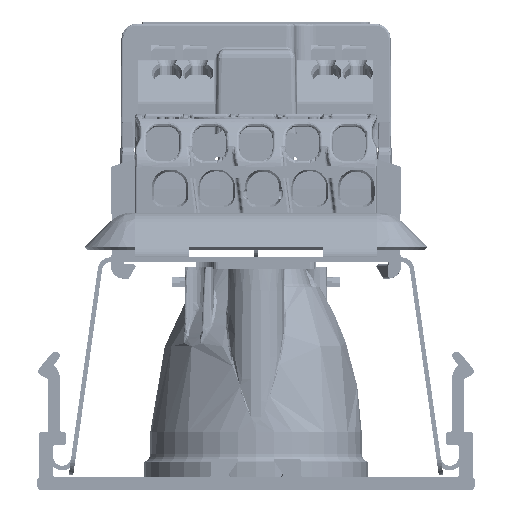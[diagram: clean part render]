
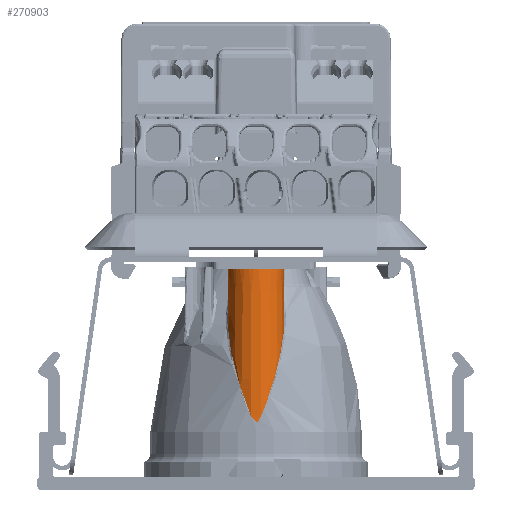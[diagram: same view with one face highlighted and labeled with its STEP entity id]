
A CAD part, front view. The second image highlights one B-rep face of the part: STEP entity #270903.
In plain terms, the highlighted conical face has half-angle 0.5 degrees and reference radius 3.352 mm.
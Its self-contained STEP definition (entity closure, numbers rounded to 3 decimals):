
#6261=CONICAL_SURFACE('',#289379,3.352,0.009);
#17709=CIRCLE('',#288207,3.125);
#18141=CIRCLE('',#289380,3.125);
#18142=CIRCLE('',#289381,3.125);
#27370=B_SPLINE_CURVE_WITH_KNOTS('',3,(#771789,#771790,#771791,#771792,
#771793,#771794,#771795,#771796,#771797,#771798,#771799,#771800,#771801,
#771802,#771803,#771804,#771805,#771806,#771807,#771808,#771809,#771810,
#771811),.UNSPECIFIED.,.F.,.F.,(4,1,1,1,1,1,1,1,1,1,1,1,1,1,1,1,1,1,1,1,
4),(0.041,0.295,0.575,1.135,
1.694,1.788,1.881,1.928,1.951,
1.963,1.974,1.998,2.021,2.068,
2.254,2.348,2.441,2.814,3.374,
3.654,3.908),.UNSPECIFIED.);
#41764=FACE_OUTER_BOUND('',#56741,.T.);
#56741=EDGE_LOOP('',(#228387,#228388,#228389,#228390));
#116818=VERTEX_POINT('',#695681);
#116819=VERTEX_POINT('',#695682);
#118545=VERTEX_POINT('',#771771);
#118546=VERTEX_POINT('',#771788);
#152849=EDGE_CURVE('',#116819,#116818,#17709,.T.);
#155724=EDGE_CURVE('',#118545,#118546,#27370,.T.);
#155726=EDGE_CURVE('',#116819,#118545,#18141,.T.);
#155727=EDGE_CURVE('',#118546,#116818,#18142,.T.);
#228387=ORIENTED_EDGE('',*,*,#155724,.F.);
#228388=ORIENTED_EDGE('',*,*,#155726,.F.);
#228389=ORIENTED_EDGE('',*,*,#152849,.T.);
#228390=ORIENTED_EDGE('',*,*,#155727,.F.);
#270903=ADVANCED_FACE('',(#41764),#6261,.T.);
#288207=AXIS2_PLACEMENT_3D('',#695684,#339820,#339821);
#289379=AXIS2_PLACEMENT_3D('',#771828,#342180,#342181);
#289380=AXIS2_PLACEMENT_3D('',#771829,#342182,#342183);
#289381=AXIS2_PLACEMENT_3D('',#771830,#342184,#342185);
#339820=DIRECTION('center_axis',(0.,0.,
-1.));
#339821=DIRECTION('ref_axis',(1.,0.,0.));
#342180=DIRECTION('center_axis',(0.,0.,
-1.));
#342181=DIRECTION('ref_axis',(0.,-1.,0.));
#342182=DIRECTION('center_axis',(0.,0.,
1.));
#342183=DIRECTION('ref_axis',(0.,-1.,0.));
#342184=DIRECTION('center_axis',(0.,0.,
1.));
#342185=DIRECTION('ref_axis',(0.,-1.,0.));
#695681=CARTESIAN_POINT('',(-2.589,-287.25,24.635));
#695682=CARTESIAN_POINT('',(2.589,-287.25,24.635));
#695684=CARTESIAN_POINT('Origin',(0.,-289.,24.635));
#771771=CARTESIAN_POINT('',(1.92,-286.534,24.635));
#771788=CARTESIAN_POINT('',(-1.92,-286.534,24.635));
#771789=CARTESIAN_POINT('Ctrl Pts',(1.92,-286.534,
24.635));
#771790=CARTESIAN_POINT('Ctrl Pts',(2.317,-286.833,
23.991));
#771791=CARTESIAN_POINT('Ctrl Pts',(2.879,-287.551,
22.497));
#771792=CARTESIAN_POINT('Ctrl Pts',(3.338,-289.091,
19.286));
#771793=CARTESIAN_POINT('Ctrl Pts',(2.855,-290.883,
15.032));
#771794=CARTESIAN_POINT('Ctrl Pts',(1.736,-291.833,11.29));
#771795=CARTESIAN_POINT('Ctrl Pts',(0.892,-292.143,
9.006));
#771796=CARTESIAN_POINT('Ctrl Pts',(0.602,-292.216,
8.298));
#771797=CARTESIAN_POINT('Ctrl Pts',(0.366,-292.253,
7.82));
#771798=CARTESIAN_POINT('Ctrl Pts',(0.215,-292.267,
7.603));
#771799=CARTESIAN_POINT('Ctrl Pts',(0.106,-292.273,
7.502));
#771800=CARTESIAN_POINT('Ctrl Pts',(-0.038,-292.276,
7.452));
#771801=CARTESIAN_POINT('Ctrl Pts',(-0.196,-292.269,
7.572));
#771802=CARTESIAN_POINT('Ctrl Pts',(-0.363,-292.253,
7.819));
#771803=CARTESIAN_POINT('Ctrl Pts',(-0.738,-292.195,
8.573));
#771804=CARTESIAN_POINT('Ctrl Pts',(-1.107,-292.076,
9.576));
#771805=CARTESIAN_POINT('Ctrl Pts',(-1.509,-291.881,
10.721));
#771806=CARTESIAN_POINT('Ctrl Pts',(-2.068,-291.533,
12.444));
#771807=CARTESIAN_POINT('Ctrl Pts',(-2.923,-290.643,
15.596));
#771808=CARTESIAN_POINT('Ctrl Pts',(-3.336,-289.091,
19.286));
#771809=CARTESIAN_POINT('Ctrl Pts',(-2.88,-287.551,
22.497));
#771810=CARTESIAN_POINT('Ctrl Pts',(-2.317,-286.833,
23.991));
#771811=CARTESIAN_POINT('Ctrl Pts',(-1.92,-286.534,
24.635));
#771828=CARTESIAN_POINT('Origin',(0.,-289.,-1.375));
#771829=CARTESIAN_POINT('Origin',(0.,-289.,24.635));
#771830=CARTESIAN_POINT('Origin',(0.,-289.,24.635));
